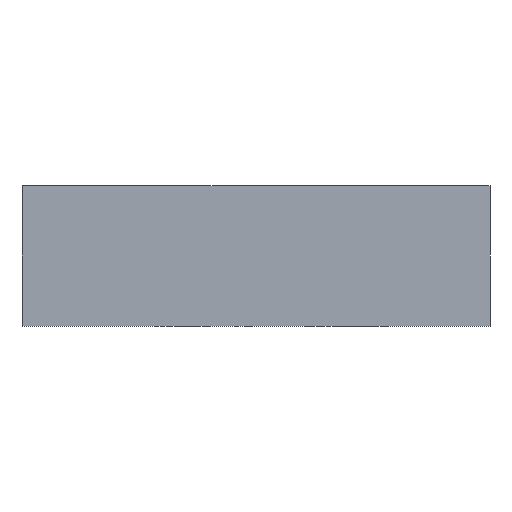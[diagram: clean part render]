
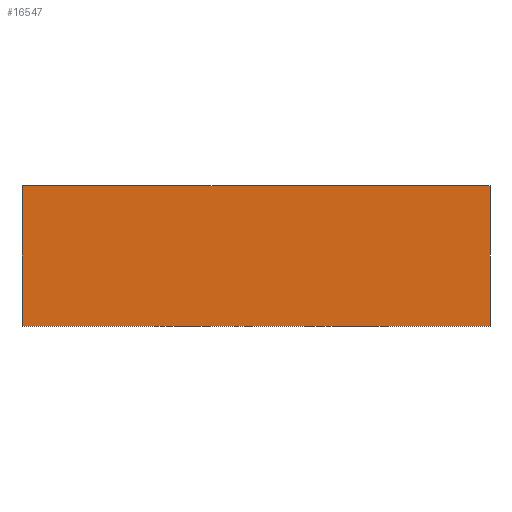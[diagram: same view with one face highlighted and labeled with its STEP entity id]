
A CAD part, left-side view. The second image highlights one B-rep face of the part: STEP entity #16547.
In plain terms, the highlighted planar face has unit normal (-1, 0, 0).
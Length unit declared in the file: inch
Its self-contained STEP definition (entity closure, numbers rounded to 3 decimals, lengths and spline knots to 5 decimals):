
#1574 = PLANE ( 'NONE',  #8367 ) ;
#1575 = CARTESIAN_POINT ( 'NONE',  ( -0.75, -0.625, 0.375 ) ) ;
#1576 = DIRECTION ( 'NONE',  ( 1., 0., 0. ) ) ;
#1577 = DIRECTION ( 'NONE',  ( 0., 0., -1. ) ) ;
#3050 = EDGE_CURVE ( 'NONE', #13950, #13957, #19214, .T. ) ;
#3387 = ORIENTED_EDGE ( 'NONE', *, *, #18920, .T. ) ;
#3388 = ORIENTED_EDGE ( 'NONE', *, *, #18921, .F. ) ;
#3389 = ORIENTED_EDGE ( 'NONE', *, *, #3050, .F. ) ;
#3390 = ORIENTED_EDGE ( 'NONE', *, *, #18919, .T. ) ;
#3800 = EDGE_LOOP ( 'NONE', ( #3387, #3388, #3389, #3390 ) ) ;
#6046 = CARTESIAN_POINT ( 'NONE',  ( -0.75, 0.625, 0. ) ) ;
#6086 = CARTESIAN_POINT ( 'NONE',  ( -0.75, -0.625, 0. ) ) ;
#6128 = CARTESIAN_POINT ( 'NONE',  ( -0.75, -0.625, 0.375 ) ) ;
#6135 = CARTESIAN_POINT ( 'NONE',  ( -0.75, 0.625, 0.375 ) ) ;
#8367 = AXIS2_PLACEMENT_3D ( 'NONE', #1575, #1576, #1577 ) ;
#11488 = DIRECTION ( 'NONE',  ( 0., -1., 0. ) ) ;
#11489 = CARTESIAN_POINT ( 'NONE',  ( -0.75, -0.625, 0.375 ) ) ;
#12556 = FACE_OUTER_BOUND ( 'NONE', #3800, .T. ) ;
#13728 = LINE ( 'NONE', #17532, #13729 ) ;
#13729 = VECTOR ( 'NONE', #17533, 39.37008 ) ;
#13730 = LINE ( 'NONE', #17534, #13731 ) ;
#13731 = VECTOR ( 'NONE', #17535, 39.37008 ) ;
#13732 = LINE ( 'NONE', #17536, #13733 ) ;
#13733 = VECTOR ( 'NONE', #17537, 39.37008 ) ;
#13866 = VERTEX_POINT ( 'NONE', #6086 ) ;
#13950 = VERTEX_POINT ( 'NONE', #6135 ) ;
#13957 = VERTEX_POINT ( 'NONE', #6128 ) ;
#14033 = VERTEX_POINT ( 'NONE', #6046 ) ;
#16547 = ADVANCED_FACE ( 'NONE', ( #12556 ), #1574, .F. ) ;
#17532 = CARTESIAN_POINT ( 'NONE',  ( -0.75, 0.625, 0.375 ) ) ;
#17533 = DIRECTION ( 'NONE',  ( 0., 0., -1. ) ) ;
#17534 = CARTESIAN_POINT ( 'NONE',  ( -0.75, -0.625, 0. ) ) ;
#17535 = DIRECTION ( 'NONE',  ( 0., -1., 0. ) ) ;
#17536 = CARTESIAN_POINT ( 'NONE',  ( -0.75, -0.625, 0.375 ) ) ;
#17537 = DIRECTION ( 'NONE',  ( 0., 0., -1. ) ) ;
#18919 = EDGE_CURVE ( 'NONE', #13950, #14033, #13728, .T. ) ;
#18920 = EDGE_CURVE ( 'NONE', #14033, #13866, #13730, .T. ) ;
#18921 = EDGE_CURVE ( 'NONE', #13957, #13866, #13732, .T. ) ;
#19214 = LINE ( 'NONE', #11489, #19215 ) ;
#19215 = VECTOR ( 'NONE', #11488, 39.37008 ) ;
